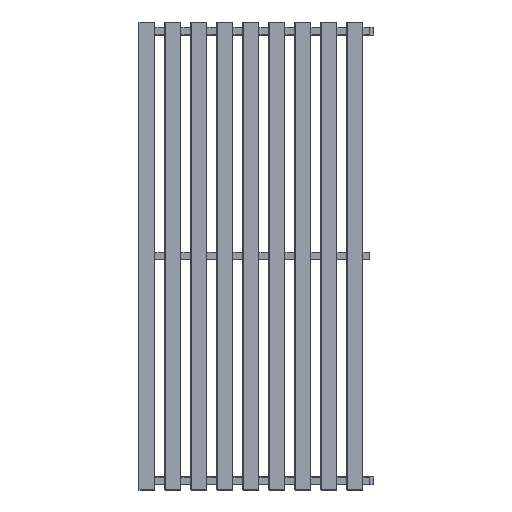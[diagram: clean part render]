
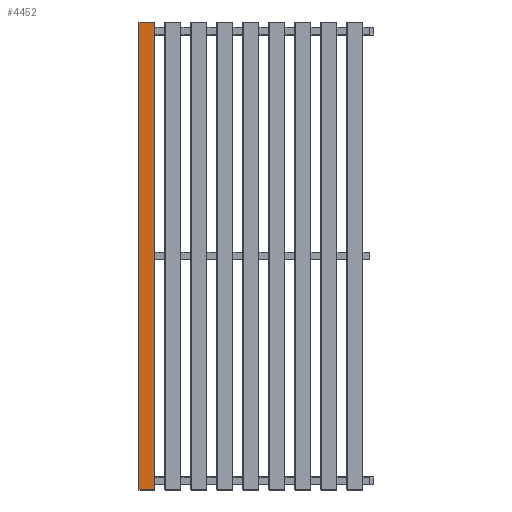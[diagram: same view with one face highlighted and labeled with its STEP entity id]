
A CAD part, top view. The second image highlights one B-rep face of the part: STEP entity #4452.
In plain terms, the highlighted planar face has unit normal (0, 0, 1) as drawn and (1, 0, 0) by its records, which use the part's own axes.
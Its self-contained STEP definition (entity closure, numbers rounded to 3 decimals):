
#2 = DIRECTION ( 'NONE',  ( 0., 1., 0. ) ) ;
#281 = DIRECTION ( 'NONE',  ( 0., 1., 0. ) ) ;
#410 = LINE ( 'NONE', #2108, #4898 ) ;
#534 = EDGE_LOOP ( 'NONE', ( #1016, #1812, #3376, #1561 ) ) ;
#616 = PLANE ( 'NONE',  #4849 ) ;
#643 = VERTEX_POINT ( 'NONE', #4364 ) ;
#715 = LINE ( 'NONE', #3497, #796 ) ;
#796 = VECTOR ( 'NONE', #3141, 1000. ) ;
#1013 = FACE_OUTER_BOUND ( 'NONE', #534, .T. ) ;
#1016 = ORIENTED_EDGE ( 'NONE', *, *, #5443, .F. ) ;
#1124 = CARTESIAN_POINT ( 'NONE',  ( 10., -21., 599.5 ) ) ;
#1252 = CARTESIAN_POINT ( 'NONE',  ( 10., -19.6, 599.5 ) ) ;
#1561 = ORIENTED_EDGE ( 'NONE', *, *, #1638, .T. ) ;
#1587 = VERTEX_POINT ( 'NONE', #2334 ) ;
#1638 = EDGE_CURVE ( 'NONE', #1587, #2760, #2724, .T. ) ;
#1812 = ORIENTED_EDGE ( 'NONE', *, *, #2378, .T. ) ;
#2108 = CARTESIAN_POINT ( 'NONE',  ( 10., -21., -599.5 ) ) ;
#2304 = DIRECTION ( 'NONE',  ( 0., 0., 1. ) ) ;
#2334 = CARTESIAN_POINT ( 'NONE',  ( 10., 19.6, -599.5 ) ) ;
#2378 = EDGE_CURVE ( 'NONE', #3479, #643, #715, .T. ) ;
#2499 = CARTESIAN_POINT ( 'NONE',  ( 10., 19.6, 599.5 ) ) ;
#2687 = CARTESIAN_POINT ( 'NONE',  ( 10., -21., 599.5 ) ) ;
#2724 = LINE ( 'NONE', #5342, #5143 ) ;
#2760 = VERTEX_POINT ( 'NONE', #2499 ) ;
#3141 = DIRECTION ( 'NONE',  ( 0., 0., -1. ) ) ;
#3376 = ORIENTED_EDGE ( 'NONE', *, *, #3533, .T. ) ;
#3479 = VERTEX_POINT ( 'NONE', #1252 ) ;
#3497 = CARTESIAN_POINT ( 'NONE',  ( 10., -19.6, 599.5 ) ) ;
#3533 = EDGE_CURVE ( 'NONE', #643, #1587, #410, .T. ) ;
#3694 = LINE ( 'NONE', #1124, #5293 ) ;
#4364 = CARTESIAN_POINT ( 'NONE',  ( 10., -19.6, -599.5 ) ) ;
#4393 = DIRECTION ( 'NONE',  ( -1., 0., 0. ) ) ;
#4452 = ADVANCED_FACE ( 'NONE', ( #1013 ), #616, .F. ) ;
#4822 = DIRECTION ( 'NONE',  ( 0., 0., 1. ) ) ;
#4849 = AXIS2_PLACEMENT_3D ( 'NONE', #2687, #4393, #2304 ) ;
#4898 = VECTOR ( 'NONE', #2, 1000. ) ;
#5143 = VECTOR ( 'NONE', #4822, 1000. ) ;
#5293 = VECTOR ( 'NONE', #281, 1000. ) ;
#5342 = CARTESIAN_POINT ( 'NONE',  ( 10., 19.6, 599.5 ) ) ;
#5443 = EDGE_CURVE ( 'NONE', #3479, #2760, #3694, .T. ) ;
